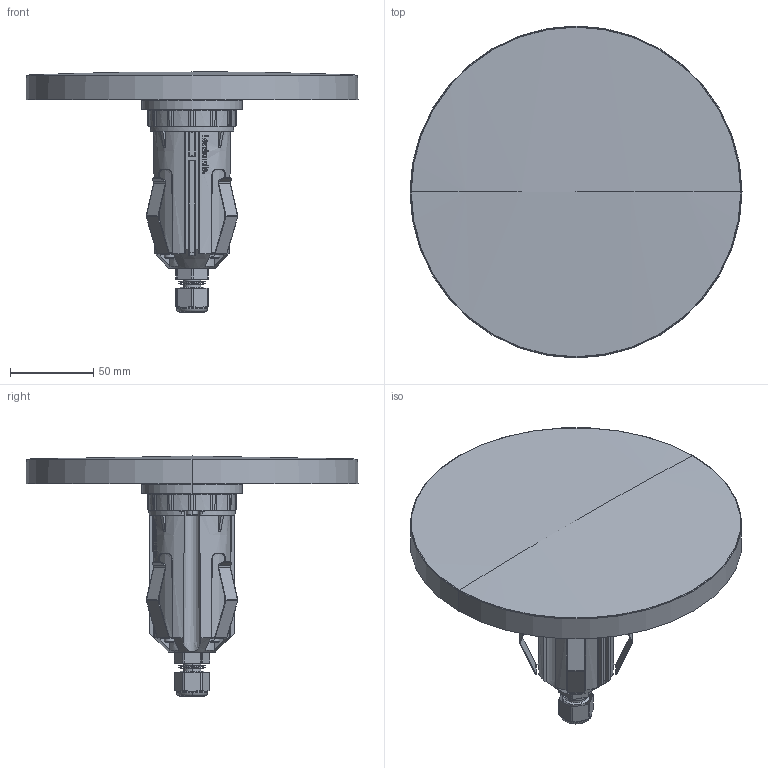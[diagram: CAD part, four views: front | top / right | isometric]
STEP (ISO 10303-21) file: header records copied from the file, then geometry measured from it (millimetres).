
FILE_DESCRIPTION((''),'2;1');
FILE_NAME('STIK-200-H200_SW0002','2025-05-27T08:48:52',('elena.baldelli'),(''),'CREO PARAMETRIC BY PTC INC, 2020354','CREO PARAMETRIC BY PTC INC, 2020354','');
FILE_SCHEMA(('CONFIG_CONTROL_DESIGN'));
Length unit declared in the file: millimetre
Products named in the file (1): STIK-200-H200_SW0002
Bounding box: 200 x 200 x 144.87 mm (x, y, z)
Surface area: 139724.7 mm2 (no closed solid volume)
Topology: 0 solids, 74 shells, 351 faces, 2104 edges, 1775 vertices
Faces by surface type: plane 123, cone 107, cylinder 56, bspline 37, torus 18, sphere 10
Entity records: 23716 total; most frequent: CARTESIAN_POINT 9782, ORIENTED_EDGE 2597, DIRECTION 2352, EDGE_CURVE 2102, VERTEX_POINT 1775, B_SPLINE_CURVE_WITH_KNOTS 966, AXIS2_PLACEMENT_3D 902, CIRCLE 588
